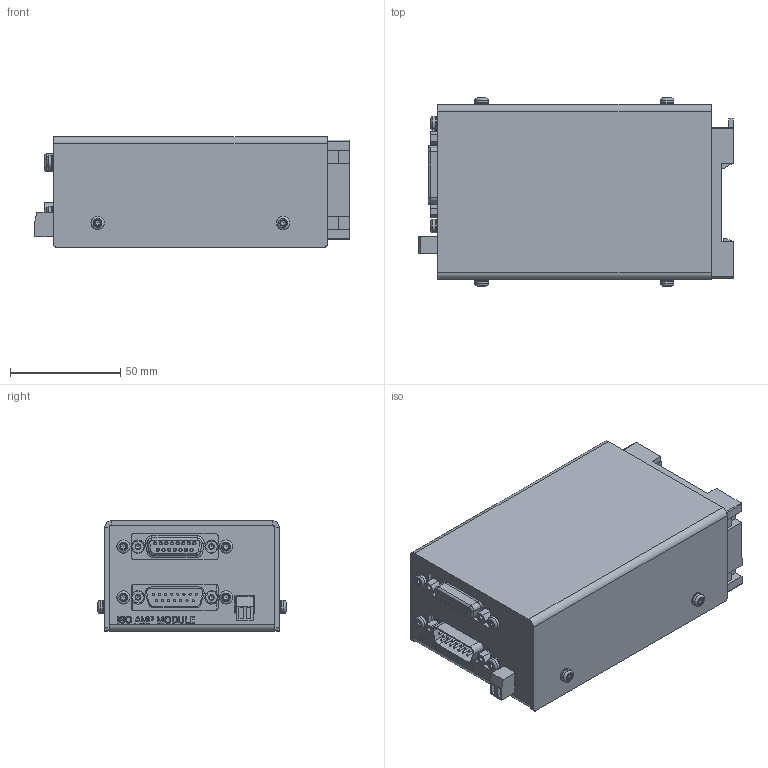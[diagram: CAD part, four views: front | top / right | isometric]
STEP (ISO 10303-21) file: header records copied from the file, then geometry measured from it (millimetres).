
FILE_DESCRIPTION(/* description */ (''),/* implementation_level */ '2;1');
FILE_NAME(/* name */ 'A:\Data\ISO AMP\step file\Iso amp module.stp',/* time_stamp */ '2021-01-05T16:18:18+01:00',/* author */ ('Delta'),/* organization */ (''),/* preprocessor_version */ 'ST-DEVELOPER v17.2',/* originating_system */ 'Autodesk Inventor 2019',/* authorisation */ '');
FILE_SCHEMA (('AUTOMOTIVE_DESIGN { 1 0 10303 214 3 1 1 }'));
Length unit declared in the file: millimetre
Products named in the file (1): Iso amp module
Bounding box: 142.5 x 85.1 x 50 mm (x, y, z)
Volume: 509922.5 mm3; surface area: 48558.6 mm2
Topology: 1 solids, 1 shells, 897 faces, 2144 edges, 1334 vertices
Faces by surface type: plane 617, cylinder 127, cone 64, bspline 62, torus 27
Full cylindrical faces by diameter (mm): 1 x15, 1.1 x15, 2.156 x4, 2.5 x1, 3.5 x1, 4.4 x2, 5 x2, 5.5 x3, 6 x20
Entity records: 26984 total; most frequent: CARTESIAN_POINT 5643, ORIENTED_EDGE 4258, DIRECTION 4029, EDGE_CURVE 2129, LINE 1405, VECTOR 1405, VERTEX_POINT 1334, AXIS2_PLACEMENT_3D 1312
